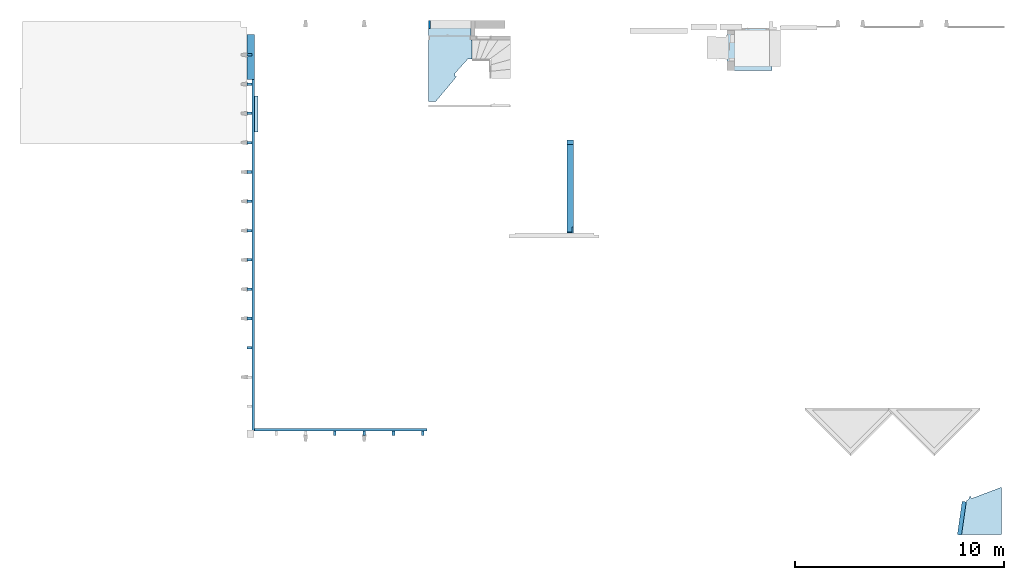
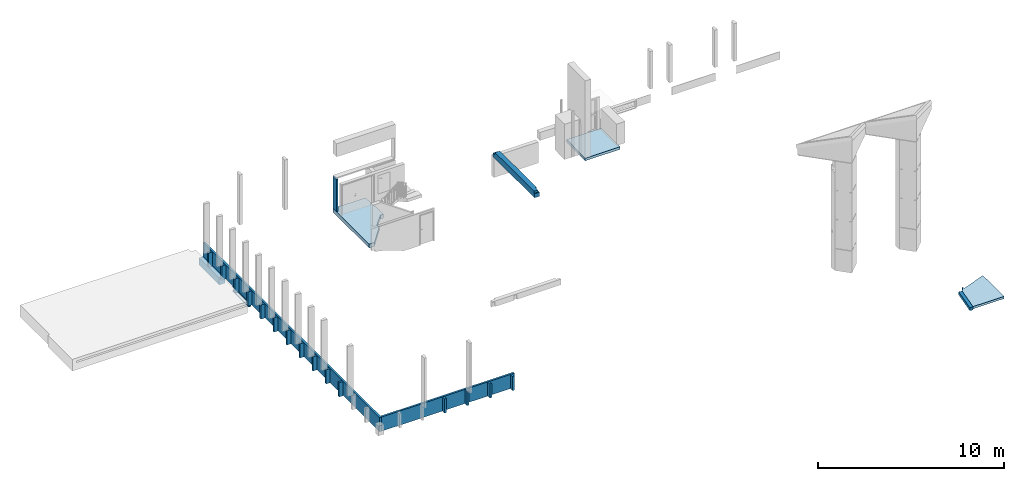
# One storey, part 2 of 13: 15 columns, 5 slabs, 4 walls, 2 beams.
"""IFC4 building model written with IfcOpenShell, lengths in metres."""

from ifc_helpers import new_model, entity, si_unit, converted_unit, derived_unit, direction, frame, origin, place, context, subcontext, project, spatial, indexed_curve, outline, extrude, polygons, source, transform, mapped, material, material_list, layer, layer_set, type_object, type_shapes, element, save


model = new_model("IFC4")

# Units and contexts
model_context = context("Model", 3, precision=1e-05, world=origin(), true_north=direction((6.12303176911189e-17, 1.0)))
body_context = subcontext(model_context, "Body", "Model", "MODEL_VIEW")
ifc_project = project(units=[si_unit("LENGTHUNIT", "METRE"), si_unit("AREAUNIT", "SQUARE_METRE"), si_unit("VOLUMEUNIT", "CUBIC_METRE"), converted_unit("PLANEANGLEUNIT", "DEGREE", entity("IfcRatioMeasure", 0.0174532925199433), si_unit("PLANEANGLEUNIT", "RADIAN"), dimensions=[0, 0, 0, 0, 0, 0, 0]), si_unit("MASSUNIT", "GRAM", prefix="KILO"), derived_unit("MASSDENSITYUNIT", [(si_unit("MASSUNIT", "GRAM", prefix="KILO"), 1), (si_unit("LENGTHUNIT", "METRE"), -3)]), derived_unit("MOMENTOFINERTIAUNIT", [(si_unit("LENGTHUNIT", "METRE"), 4)]), si_unit("TIMEUNIT", "SECOND"), si_unit("FREQUENCYUNIT", "HERTZ"), si_unit("THERMODYNAMICTEMPERATUREUNIT", "DEGREE_CELSIUS"), derived_unit("THERMALTRANSMITTANCEUNIT", [(si_unit("MASSUNIT", "GRAM", prefix="KILO"), 1), (si_unit("THERMODYNAMICTEMPERATUREUNIT", "KELVIN"), -1), (si_unit("TIMEUNIT", "SECOND"), -3)]), derived_unit("VOLUMETRICFLOWRATEUNIT", [(si_unit("LENGTHUNIT", "METRE"), 3), (si_unit("TIMEUNIT", "SECOND"), -1)]), si_unit("ELECTRICCURRENTUNIT", "AMPERE"), si_unit("ELECTRICVOLTAGEUNIT", "VOLT"), si_unit("POWERUNIT", "WATT"), si_unit("FORCEUNIT", "NEWTON", prefix="KILO"), si_unit("ILLUMINANCEUNIT", "LUX"), si_unit("LUMINOUSFLUXUNIT", "LUMEN"), si_unit("LUMINOUSINTENSITYUNIT", "CANDELA"), derived_unit("USERDEFINED", [(si_unit("MASSUNIT", "GRAM", prefix="KILO"), -1), (si_unit("LENGTHUNIT", "METRE"), -2), (si_unit("TIMEUNIT", "SECOND"), 3), (si_unit("LUMINOUSFLUXUNIT", "LUMEN"), 1)]), derived_unit("LINEARVELOCITYUNIT", [(si_unit("LENGTHUNIT", "METRE"), 1), (si_unit("TIMEUNIT", "SECOND"), -1)]), si_unit("PRESSUREUNIT", "PASCAL"), derived_unit("USERDEFINED", [(si_unit("LENGTHUNIT", "METRE"), -2), (si_unit("MASSUNIT", "GRAM", prefix="KILO"), 1), (si_unit("TIMEUNIT", "SECOND"), -2)]), derived_unit("LINEARFORCEUNIT", [(si_unit("MASSUNIT", "GRAM", prefix="KILO"), 1), (si_unit("LENGTHUNIT", "METRE"), 1), (si_unit("TIMEUNIT", "SECOND"), -2), (si_unit("LENGTHUNIT", "METRE"), -1)]), derived_unit("PLANARFORCEUNIT", [(si_unit("MASSUNIT", "GRAM", prefix="KILO"), 1), (si_unit("LENGTHUNIT", "METRE"), 1), (si_unit("TIMEUNIT", "SECOND"), -2), (si_unit("LENGTHUNIT", "METRE"), -2)])], contexts=[model_context])

# Site, building, storey
site_placement = place(None, origin())
site = spatial("IfcSite", under=ifc_project, at=site_placement, Name="Default", CompositionType="ELEMENT")
building_placement = place(site_placement, origin())
building = spatial("IfcBuilding", under=site, at=building_placement, Name="HOTEL CONSULAIRE BOULOGNE SUR MER", CompositionType="ELEMENT")
storey_placement = place(building_placement, frame((0.0, 0.0, -1.40419978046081)))
storey = spatial("IfcBuildingStorey", under=building, at=storey_placement, Name="Demi-niveau", CompositionType="ELEMENT", Elevation=-1.40419978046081)

# Columns
ifc_material_1 = material(Name="Finition Peinture - Blanc satiné", Category="Peinture")
ifc_material_2 = material(Name="<Unnamed>")
ifc_material_list_1 = material_list([ifc_material_1, ifc_material_2])
column_type_1 = type_object("IfcColumnType", Name="Poteaux porteurs 93:Poteaux porteurs 1", PredefinedType="COLUMN", material=ifc_material_list_1)
shared_shape_1 = source(origin(), body_context, "Body", "SweptSolid", [
    extrude(outline(indexed_curve([(-0.0611500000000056, -0.124999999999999), (0.0611500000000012, -0.124999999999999), (0.06115000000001, 0.125000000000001), (-0.0611500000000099, 0.124999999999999), (-0.0611500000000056, -0.124999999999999)], self_intersect=False)), frame((-13.7203496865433, -25.4114499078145, -1.19958813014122), z_axis=(0.0, 0.0, 1.0), x_axis=(0.0, -1.0, 0.0)), (0.0, 0.0, 1.0), 0.929588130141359),
])
type_shapes(column_type_1, [shared_shape_1])
column_1_placement = place(storey_placement, frame((0.0, 0.0, 1.40419978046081)))
element("IfcColumn", 1, at=column_1_placement, inside=storey, type_object=column_type_1, material=ifc_material_1, Name="Poteaux porteurs 93:Poteaux porteurs 1", ObjectType="Poteaux porteurs 93:Poteaux porteurs 1", PredefinedType="COLUMN", context=body_context, shape_type="MappedRepresentation", body=[
    mapped(shared_shape_1, transform((0.0, 0.0, 0.0), scale=1.0)),
])
ifc_material_list_2 = material_list([ifc_material_2, ifc_material_1])
column_type_2 = type_object("IfcColumnType", Name="Poteaux porteurs 95:Poteaux porteurs 1", PredefinedType="COLUMN", material=ifc_material_list_2)
shared_shape_2 = source(origin(), body_context, "Body", "SweptSolid", [
    extrude(outline(indexed_curve([(-0.0611500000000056, -0.124999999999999), (0.0611500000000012, -0.124999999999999), (0.06115000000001, 0.125000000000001), (-0.0611500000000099, 0.124999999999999), (-0.0611500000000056, -0.124999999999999)], self_intersect=False)), frame((-13.7203496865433, -24.0114499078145, -1.19958813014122), z_axis=(0.0, 0.0, 1.0), x_axis=(0.0, -1.0, 0.0)), (0.0, 0.0, 1.0), 0.929588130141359),
])
type_shapes(column_type_2, [shared_shape_2])
column_2_placement = place(storey_placement, frame((0.0, 0.0, 1.40419978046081)))
element("IfcColumn", 2, at=column_2_placement, inside=storey, type_object=column_type_2, material=ifc_material_1, Name="Poteaux porteurs 95:Poteaux porteurs 1", ObjectType="Poteaux porteurs 95:Poteaux porteurs 1", PredefinedType="COLUMN", context=body_context, shape_type="MappedRepresentation", body=[
    mapped(shared_shape_2, transform((0.0, 0.0, 0.0), scale=1.0)),
])
ifc_material_list_3 = material_list([ifc_material_1, ifc_material_2])
column_type_3 = type_object("IfcColumnType", Name="Poteaux porteurs 96:Poteaux porteurs 1", PredefinedType="COLUMN", material=ifc_material_list_3)
shared_shape_3 = source(origin(), body_context, "Body", "SweptSolid", [
    extrude(outline(indexed_curve([(-0.0611500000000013, -0.124999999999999), (0.0611500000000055, -0.124999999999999), (0.0611500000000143, 0.125000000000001), (-0.0611500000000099, 0.124999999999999), (-0.0611500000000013, -0.124999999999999)], self_intersect=False)), frame((-13.7203496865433, -22.6114499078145, -1.19958813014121), z_axis=(0.0, 0.0, 1.0), x_axis=(0.0, -1.0, 0.0)), (0.0, 0.0, 1.0), 0.929588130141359),
])
type_shapes(column_type_3, [shared_shape_3])
column_3_placement = place(storey_placement, frame((0.0, 0.0, 1.40419978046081)))
element("IfcColumn", 3, at=column_3_placement, inside=storey, type_object=column_type_3, material=ifc_material_1, Name="Poteaux porteurs 96:Poteaux porteurs 1", ObjectType="Poteaux porteurs 96:Poteaux porteurs 1", PredefinedType="COLUMN", context=body_context, shape_type="MappedRepresentation", body=[
    mapped(shared_shape_3, transform((0.0, 0.0, 0.0), scale=1.0)),
])
ifc_material_list_4 = material_list([ifc_material_2, ifc_material_1])
column_type_4 = type_object("IfcColumnType", Name="Poteaux porteurs 97:Poteaux porteurs 1", PredefinedType="COLUMN", material=ifc_material_list_4)
shared_shape_4 = source(origin(), body_context, "Body", "SweptSolid", [
    extrude(outline(indexed_curve([(-0.0611500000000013, -0.124999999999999), (0.0611500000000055, -0.124999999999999), (0.0611500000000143, 0.125000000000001), (-0.0611500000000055, 0.124999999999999), (-0.0611500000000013, -0.124999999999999)], self_intersect=False)), frame((-13.7203496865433, -21.2114499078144, -1.19958813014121), z_axis=(0.0, 0.0, 1.0), x_axis=(0.0, -1.0, 0.0)), (0.0, 0.0, 1.0), 0.929588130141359),
])
type_shapes(column_type_4, [shared_shape_4])
column_4_placement = place(storey_placement, frame((0.0, 0.0, 1.40419978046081)))
element("IfcColumn", 4, at=column_4_placement, inside=storey, type_object=column_type_4, material=ifc_material_1, Name="Poteaux porteurs 97:Poteaux porteurs 1", ObjectType="Poteaux porteurs 97:Poteaux porteurs 1", PredefinedType="COLUMN", context=body_context, shape_type="MappedRepresentation", body=[
    mapped(shared_shape_4, transform((0.0, 0.0, 0.0), scale=1.0)),
])
ifc_material_list_5 = material_list([ifc_material_2, ifc_material_1])
column_type_5 = type_object("IfcColumnType", Name="Poteaux porteurs 98:Poteaux porteurs 1", PredefinedType="COLUMN", material=ifc_material_list_5)
shared_shape_5 = source(origin(), body_context, "Body", "SweptSolid", [
    extrude(outline(indexed_curve([(-0.0611500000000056, -0.124999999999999), (0.0611500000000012, -0.124999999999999), (0.06115000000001, 0.125000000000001), (-0.0611500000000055, 0.124999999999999), (-0.0611500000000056, -0.124999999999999)], self_intersect=False)), frame((-13.7203496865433, -19.8114499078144, -1.1995881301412), z_axis=(0.0, 0.0, 1.0), x_axis=(0.0, -1.0, 0.0)), (0.0, 0.0, 1.0), 0.929588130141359),
])
type_shapes(column_type_5, [shared_shape_5])
column_5_placement = place(storey_placement, frame((0.0, 0.0, 1.40419978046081)))
element("IfcColumn", 5, at=column_5_placement, inside=storey, type_object=column_type_5, material=ifc_material_1, Name="Poteaux porteurs 98:Poteaux porteurs 1", ObjectType="Poteaux porteurs 98:Poteaux porteurs 1", PredefinedType="COLUMN", context=body_context, shape_type="MappedRepresentation", body=[
    mapped(shared_shape_5, transform((0.0, 0.0, 0.0), scale=1.0)),
])
ifc_material_list_6 = material_list([ifc_material_1, ifc_material_2])
column_type_6 = type_object("IfcColumnType", Name="Poteaux porteurs 99:Poteaux porteurs 1", PredefinedType="COLUMN", material=ifc_material_list_6)
shared_shape_6 = source(origin(), body_context, "Body", "SweptSolid", [
    extrude(outline(indexed_curve([(-0.0611500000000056, -0.124999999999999), (0.0611500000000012, -0.124999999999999), (0.06115000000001, 0.125000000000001), (-0.0611500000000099, 0.124999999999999), (-0.0611500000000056, -0.124999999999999)], self_intersect=False)), frame((-13.7203496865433, -18.4114499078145, -1.1995881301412), z_axis=(0.0, 0.0, 1.0), x_axis=(0.0, -1.0, 0.0)), (0.0, 0.0, 1.0), 0.929588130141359),
])
type_shapes(column_type_6, [shared_shape_6])
column_6_placement = place(storey_placement, frame((0.0, 0.0, 1.40419978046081)))
element("IfcColumn", 6, at=column_6_placement, inside=storey, type_object=column_type_6, material=ifc_material_1, Name="Poteaux porteurs 99:Poteaux porteurs 1", ObjectType="Poteaux porteurs 99:Poteaux porteurs 1", PredefinedType="COLUMN", context=body_context, shape_type="MappedRepresentation", body=[
    mapped(shared_shape_6, transform((0.0, 0.0, 0.0), scale=1.0)),
])
ifc_material_list_7 = material_list([ifc_material_2, ifc_material_1])
column_type_7 = type_object("IfcColumnType", Name="Poteaux porteurs 100:Poteaux porteurs 1", PredefinedType="COLUMN", material=ifc_material_list_7)
shared_shape_7 = source(origin(), body_context, "Body", "SweptSolid", [
    extrude(outline(indexed_curve([(-0.0611500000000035, -0.124999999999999), (0.0611500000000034, -0.124999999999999), (0.0611500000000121, 0.125000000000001), (-0.0611500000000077, 0.124999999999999), (-0.0611500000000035, -0.124999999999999)], self_intersect=False)), frame((-13.7203496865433, -17.0114499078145, -1.1995881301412), z_axis=(0.0, 0.0, 1.0), x_axis=(0.0, -1.0, 0.0)), (0.0, 0.0, 1.0), 0.929588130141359),
])
type_shapes(column_type_7, [shared_shape_7])
column_7_placement = place(storey_placement, frame((0.0, 0.0, 1.40419978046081)))
element("IfcColumn", 7, at=column_7_placement, inside=storey, type_object=column_type_7, material=ifc_material_1, Name="Poteaux porteurs 100:Poteaux porteurs 1", ObjectType="Poteaux porteurs 100:Poteaux porteurs 1", PredefinedType="COLUMN", context=body_context, shape_type="MappedRepresentation", body=[
    mapped(shared_shape_7, transform((0.0, 0.0, 0.0), scale=1.0)),
])
ifc_material_list_8 = material_list([ifc_material_2, ifc_material_1])
column_type_8 = type_object("IfcColumnType", Name="Poteaux porteurs 101:Poteaux porteurs 1", PredefinedType="COLUMN", material=ifc_material_list_8)
shared_shape_8 = source(origin(), body_context, "Body", "SweptSolid", [
    extrude(outline(indexed_curve([(-0.0611500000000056, -0.124999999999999), (0.0611500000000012, -0.124999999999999), (0.06115000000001, 0.125000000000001), (-0.0611500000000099, 0.124999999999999), (-0.0611500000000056, -0.124999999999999)], self_intersect=False)), frame((-13.7203496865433, -15.6114499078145, -1.19958813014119), z_axis=(0.0, 0.0, 1.0), x_axis=(0.0, -1.0, 0.0)), (0.0, 0.0, 1.0), 0.929588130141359),
])
type_shapes(column_type_8, [shared_shape_8])
column_8_placement = place(storey_placement, frame((0.0, 0.0, 1.40419978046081)))
element("IfcColumn", 8, at=column_8_placement, inside=storey, type_object=column_type_8, material=ifc_material_1, Name="Poteaux porteurs 101:Poteaux porteurs 1", ObjectType="Poteaux porteurs 101:Poteaux porteurs 1", PredefinedType="COLUMN", context=body_context, shape_type="MappedRepresentation", body=[
    mapped(shared_shape_8, transform((0.0, 0.0, 0.0), scale=1.0)),
])
ifc_material_list_9 = material_list([ifc_material_2, ifc_material_1])
column_type_9 = type_object("IfcColumnType", Name="Poteaux porteurs 102:Poteaux porteurs 1", PredefinedType="COLUMN", material=ifc_material_list_9)
shared_shape_9 = source(origin(), body_context, "Body", "SweptSolid", [
    extrude(outline(indexed_curve([(-0.0611500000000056, -0.124999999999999), (0.0611500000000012, -0.124999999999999), (0.06115000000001, 0.125000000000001), (-0.0611500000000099, 0.124999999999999), (-0.0611500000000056, -0.124999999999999)], self_intersect=False)), frame((-13.7203496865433, -14.2114499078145, -1.19958813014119), z_axis=(0.0, 0.0, 1.0), x_axis=(0.0, -1.0, 0.0)), (0.0, 0.0, 1.0), 0.929588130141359),
])
type_shapes(column_type_9, [shared_shape_9])
column_9_placement = place(storey_placement, frame((0.0, 0.0, 1.40419978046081)))
element("IfcColumn", 9, at=column_9_placement, inside=storey, type_object=column_type_9, material=ifc_material_1, Name="Poteaux porteurs 102:Poteaux porteurs 1", ObjectType="Poteaux porteurs 102:Poteaux porteurs 1", PredefinedType="COLUMN", context=body_context, shape_type="MappedRepresentation", body=[
    mapped(shared_shape_9, transform((0.0, 0.0, 0.0), scale=1.0)),
])
ifc_material_list_10 = material_list([ifc_material_2, ifc_material_1])
column_type_10 = type_object("IfcColumnType", Name="Poteaux porteurs 103:Poteaux porteurs 1", PredefinedType="COLUMN", material=ifc_material_list_10)
shared_shape_10 = source(origin(), body_context, "Body", "SweptSolid", [
    extrude(outline(indexed_curve([(-0.0611500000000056, -0.124999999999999), (0.0611500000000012, -0.124999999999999), (0.06115000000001, 0.125000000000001), (-0.0611500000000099, 0.124999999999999), (-0.0611500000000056, -0.124999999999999)], self_intersect=False)), frame((-13.7203496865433, -12.8114499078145, -1.19958813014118), z_axis=(0.0, 0.0, 1.0), x_axis=(0.0, -1.0, 0.0)), (0.0, 0.0, 1.0), 0.929588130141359),
])
type_shapes(column_type_10, [shared_shape_10])
column_10_placement = place(storey_placement, frame((0.0, 0.0, 1.40419978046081)))
element("IfcColumn", 10, at=column_10_placement, inside=storey, type_object=column_type_10, material=ifc_material_1, Name="Poteaux porteurs 103:Poteaux porteurs 1", ObjectType="Poteaux porteurs 103:Poteaux porteurs 1", PredefinedType="COLUMN", context=body_context, shape_type="MappedRepresentation", body=[
    mapped(shared_shape_10, transform((0.0, 0.0, 0.0), scale=1.0)),
])
ifc_material_list_11 = material_list([ifc_material_2, ifc_material_1])
column_type_11 = type_object("IfcColumnType", Name="Poteaux porteurs 104:Poteaux porteurs 1", PredefinedType="COLUMN", material=ifc_material_list_11)
shared_shape_11 = source(origin(), body_context, "Body", "SweptSolid", [
    extrude(outline(indexed_curve([(-0.0611500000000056, -0.124999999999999), (0.0611500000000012, -0.124999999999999), (0.06115000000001, 0.125000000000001), (-0.0611500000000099, 0.124999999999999), (-0.0611500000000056, -0.124999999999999)], self_intersect=False)), frame((-13.7203496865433, -11.4114499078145, -1.19958813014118), z_axis=(0.0, 0.0, 1.0), x_axis=(0.0, -1.0, 0.0)), (0.0, 0.0, 1.0), 0.929588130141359),
])
type_shapes(column_type_11, [shared_shape_11])
column_11_placement = place(storey_placement, frame((0.0, 0.0, 1.40419978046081)))
element("IfcColumn", 11, at=column_11_placement, inside=storey, type_object=column_type_11, material=ifc_material_1, Name="Poteaux porteurs 104:Poteaux porteurs 1", ObjectType="Poteaux porteurs 104:Poteaux porteurs 1", PredefinedType="COLUMN", context=body_context, shape_type="MappedRepresentation", body=[
    mapped(shared_shape_11, transform((0.0, 0.0, 0.0), scale=1.0)),
])
ifc_material_list_12 = material_list([ifc_material_1, ifc_material_2])
column_type_12 = type_object("IfcColumnType", Name="Poteaux porteurs 107:Poteaux porteurs 1", PredefinedType="COLUMN", material=ifc_material_list_12)
shared_shape_12 = source(origin(), body_context, "Body", "SweptSolid", [
    extrude(outline(indexed_curve([(-0.112611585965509, -0.0611500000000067), (0.112611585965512, -0.0611500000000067), (0.112611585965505, 0.0611500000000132), (-0.112611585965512, 0.0611500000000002), (-0.112611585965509, -0.0611500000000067)], self_intersect=False)), frame((-9.64141997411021, -29.5006786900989, -1.19958813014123), z_axis=(0.0, 0.0, 1.0), x_axis=(0.0, -1.0, 0.0)), (0.0, 0.0, 1.0), 0.929588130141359),
])
type_shapes(column_type_12, [shared_shape_12])
column_12_placement = place(storey_placement, frame((0.0, 0.0, 1.40419978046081)))
element("IfcColumn", 12, at=column_12_placement, inside=storey, type_object=column_type_12, material=ifc_material_1, Name="Poteaux porteurs 107:Poteaux porteurs 1", ObjectType="Poteaux porteurs 107:Poteaux porteurs 1", PredefinedType="COLUMN", context=body_context, shape_type="MappedRepresentation", body=[
    mapped(shared_shape_12, transform((0.0, 0.0, 0.0), scale=1.0)),
])
ifc_material_list_13 = material_list([ifc_material_1, ifc_material_2])
column_type_13 = type_object("IfcColumnType", Name="Poteaux porteurs 108:Poteaux porteurs 1", PredefinedType="COLUMN", material=ifc_material_list_13)
shared_shape_13 = source(origin(), body_context, "Body", "SweptSolid", [
    extrude(outline(indexed_curve([(-0.112611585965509, -0.0611500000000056), (0.112611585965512, -0.0611500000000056), (0.112611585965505, 0.0611500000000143), (-0.112611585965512, 0.0611500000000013), (-0.112611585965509, -0.0611500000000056)], self_intersect=False)), frame((-8.24141997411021, -29.5006786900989, -1.19958813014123), z_axis=(0.0, 0.0, 1.0), x_axis=(0.0, -1.0, 0.0)), (0.0, 0.0, 1.0), 0.929588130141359),
])
type_shapes(column_type_13, [shared_shape_13])
column_13_placement = place(storey_placement, frame((0.0, 0.0, 1.40419978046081)))
element("IfcColumn", 13, at=column_13_placement, inside=storey, type_object=column_type_13, material=ifc_material_1, Name="Poteaux porteurs 108:Poteaux porteurs 1", ObjectType="Poteaux porteurs 108:Poteaux porteurs 1", PredefinedType="COLUMN", context=body_context, shape_type="MappedRepresentation", body=[
    mapped(shared_shape_13, transform((0.0, 0.0, 0.0), scale=1.0)),
])
ifc_material_list_14 = material_list([ifc_material_1, ifc_material_2])
column_type_14 = type_object("IfcColumnType", Name="Poteaux porteurs 109:Poteaux porteurs 1", PredefinedType="COLUMN", material=ifc_material_list_14)
shared_shape_14 = source(origin(), body_context, "Body", "SweptSolid", [
    extrude(outline(indexed_curve([(-0.112611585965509, -0.0611500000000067), (0.112611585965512, -0.0611500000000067), (0.112611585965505, 0.0611500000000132), (-0.112611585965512, 0.0611500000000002), (-0.112611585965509, -0.0611500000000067)], self_intersect=False)), frame((-6.84141997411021, -29.5006786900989, -1.19958813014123), z_axis=(0.0, 0.0, 1.0), x_axis=(0.0, -1.0, 0.0)), (0.0, 0.0, 1.0), 0.929588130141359),
])
type_shapes(column_type_14, [shared_shape_14])
column_14_placement = place(storey_placement, frame((0.0, 0.0, 1.40419978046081)))
element("IfcColumn", 14, at=column_14_placement, inside=storey, type_object=column_type_14, material=ifc_material_1, Name="Poteaux porteurs 109:Poteaux porteurs 1", ObjectType="Poteaux porteurs 109:Poteaux porteurs 1", PredefinedType="COLUMN", context=body_context, shape_type="MappedRepresentation", body=[
    mapped(shared_shape_14, transform((0.0, 0.0, 0.0), scale=1.0)),
])
ifc_material_list_15 = material_list([ifc_material_1, ifc_material_2])
column_type_15 = type_object("IfcColumnType", Name="Poteaux porteurs 110:Poteaux porteurs 1", PredefinedType="COLUMN", material=ifc_material_list_15)
shared_shape_15 = source(origin(), body_context, "Body", "SweptSolid", [
    extrude(outline(indexed_curve([(-0.112611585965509, -0.0611500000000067), (0.112611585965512, -0.0611500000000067), (0.112611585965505, 0.0611500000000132), (-0.112611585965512, 0.0611500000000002), (-0.112611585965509, -0.0611500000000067)], self_intersect=False)), frame((-5.44141997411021, -29.5006786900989, -1.19958813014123), z_axis=(0.0, 0.0, 1.0), x_axis=(0.0, -1.0, 0.0)), (0.0, 0.0, 1.0), 0.929588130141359),
])
type_shapes(column_type_15, [shared_shape_15])
column_15_placement = place(storey_placement, frame((0.0, 0.0, 1.40419978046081)))
element("IfcColumn", 15, at=column_15_placement, inside=storey, type_object=column_type_15, material=ifc_material_1, Name="Poteaux porteurs 110:Poteaux porteurs 1", ObjectType="Poteaux porteurs 110:Poteaux porteurs 1", PredefinedType="COLUMN", context=body_context, shape_type="MappedRepresentation", body=[
    mapped(shared_shape_15, transform((0.0, 0.0, 0.0), scale=1.0)),
])

# Beams
ifc_material_3 = material(Name="Béton - Béton coulé sur place", Category="Béton")
beam_type_1 = type_object("IfcBeamType", Name="Poutre rectangulaire - Béton:200x200", PredefinedType="BEAM", material=ifc_material_3)
shared_shape_16 = source(origin(), body_context, "Body", "Tessellation", [
    polygons([(0.0, 0.0285473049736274, 0.2), (0.0, 0.0285473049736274, 0.0), (0.197952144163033, 0.0, 0.0), (0.197952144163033, 0.0, 0.2), (0.228788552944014, 1.6150082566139, 0.200000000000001), (0.228788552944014, 1.61500825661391, 8.12150346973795e-16), (0.0288156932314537, 0.228360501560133, 2.70716782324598e-16), (0.00311988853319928, 0.0501811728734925, 0.0), (0.260522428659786, 1.60910167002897, 8.12150346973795e-16), (0.292707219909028, 1.60663877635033, 8.12150346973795e-16), (0.426860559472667, 1.58729209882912, 8.12150346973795e-16), (0.227974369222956, 0.20817950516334, 2.70716782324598e-16), (0.202162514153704, 0.0291954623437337, 2.70716782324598e-16), (0.426860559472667, 1.58729209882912, 0.200000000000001), (0.292707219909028, 1.60663877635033, 0.200000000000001), (0.260522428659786, 1.60910167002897, 0.200000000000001)], [[[4, 1, 2, 3]], [[2, 1, 5, 6, 7, 8]], [[2, 8, 7, 6, 9, 10, 11, 12, 13, 3]], [[4, 3, 13, 12, 11, 14]], [[1, 4, 14, 15, 16, 5]], [[5, 16, 9, 6]], [[15, 10, 9, 16]], [[10, 15, 14, 11]]], closed=True),
])
type_shapes(beam_type_1, [shared_shape_16])
beam_1_placement = place(storey_placement, frame((20.1078210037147, -34.3669716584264, -0.657300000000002)))
element("IfcBeam", 16, at=beam_1_placement, inside=storey, type_object=beam_type_1, material=ifc_material_3, Name="Poutre rectangulaire - Béton:200x200", ObjectType="Poutre rectangulaire - Béton:200x200", PredefinedType="BEAM", context=body_context, shape_type="MappedRepresentation", body=[
    mapped(shared_shape_16, transform((0.0, 0.0, 0.0), scale=1.0)),
])
beam_type_2 = type_object("IfcBeamType", Name="Poutre rectangulaire - Béton:300X400", PredefinedType="BEAM", material=ifc_material_3)
shared_shape_17 = source(origin(), body_context, "Body", "Tessellation", [
    polygons([(0.300000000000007, 4.4344, 0.0), (0.235000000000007, 4.4344, 0.0), (0.170000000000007, 4.4344, 0.0), (7.03863634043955e-15, 4.4344, 0.0), (7.03863634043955e-15, 4.4344, 0.261821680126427), (0.235000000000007, 4.4344, 0.261821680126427), (0.300000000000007, 4.4344, 0.261821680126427), (0.0, 0.0, 0.0), (0.3, 0.0, 0.0), (0.3, 0.0, 0.261821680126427), (0.0, 0.0, 0.261821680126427), (0.3, 0.0123638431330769, 0.0), (0.300000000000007, 4.22703615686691, 0.261821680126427), (0.300000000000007, 4.22703615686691, 0.296821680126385), (0.300000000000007, 4.22703615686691, 0.4), (0.300000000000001, 0.292363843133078, 0.4), (0.300000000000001, 0.292363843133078, 0.261821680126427), (7.03863634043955e-15, 4.42203615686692, 0.0), (0.0, 0.0474442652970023, 0.261821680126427), (0.0, 0.0474442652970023, 0.4), (6.76791955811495e-15, 4.22703615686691, 0.4), (6.76791955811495e-15, 4.22703615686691, 0.261821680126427), (7.03863634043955e-15, 4.42203615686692, 0.261821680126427), (0.170000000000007, 4.22703615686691, 0.4), (0.235000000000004, 0.0474442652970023, 0.4), (0.235000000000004, 0.282363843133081, 0.4), (0.235000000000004, 0.292363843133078, 0.4), (0.235000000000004, 0.0474442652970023, 0.261821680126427), (0.235000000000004, 0.292363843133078, 0.261821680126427)], [[[6, 7, 1, 2, 3, 4, 5]], [[13, 22, 21, 24, 15, 14]], [[8, 9, 10, 11]], [[27, 29, 17, 16]], [[20, 19, 28, 25]], [[15, 16, 17, 10, 9, 12, 1, 7, 13, 14]], [[26, 25, 28, 29, 27]], [[12, 9, 8, 18, 4, 3, 2, 1]], [[23, 5, 4, 18, 8, 11, 19, 20, 21, 22]], [[27, 16, 15, 24, 21, 20, 25, 26]], [[13, 7, 6, 5, 23, 22]], [[29, 28, 19, 11, 10, 17]]], closed=True),
])
type_shapes(beam_type_2, [shared_shape_17])
beam_2_placement = place(storey_placement, frame((1.45747131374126, -19.9272782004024, 4.52890507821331)))
element("IfcBeam", 17, at=beam_2_placement, inside=storey, type_object=beam_type_2, material=ifc_material_3, Name="Poutre rectangulaire - Béton:300X400", ObjectType="Poutre rectangulaire - Béton:300X400", PredefinedType="BEAM", context=body_context, shape_type="MappedRepresentation", body=[
    mapped(shared_shape_17, transform((0.0, 0.0, 0.0), scale=1.0)),
])

# Slabs
ifc_layer_1 = layer(ifc_material_3, 0.25, Name="Béton - Béton coulé sur place", Category="Béton")
ifc_layer_set_1 = layer_set([ifc_layer_1], Name="Sol:Dalle en béton -250")
slab_type_1 = type_object("IfcSlabType", Name="Sol:Dalle en béton -250", PredefinedType="FLOOR", material=ifc_layer_set_1)
slab_1_placement = place(storey_placement, origin())
element("IfcSlab", 18, at=slab_1_placement, inside=storey, type_object=slab_type_1, material=ifc_layer_set_1, Name="Sol:Dalle en béton -250", ObjectType="Sol:Dalle en béton -250", PredefinedType="FLOOR", context=body_context, shape_type="SweptSolid", body=[
    extrude(outline(indexed_curve([(-1.94900257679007, -1.29448252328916), (1.91241730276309, -1.29448252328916), (1.91241730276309, 0.720561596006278), (0.990037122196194, 0.720561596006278), (0.990037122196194, 0.783182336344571), (0.0900873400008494, 0.767473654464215), (0.0900873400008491, 0.583672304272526), (-0.604359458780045, -0.0416104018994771), (-0.741359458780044, -0.0416104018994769), (-0.741359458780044, 0.0550336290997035), (-1.94900257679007, -0.958299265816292), (-1.94900257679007, -1.29448252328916)], self_intersect=False)), frame((-3.86529065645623, -11.692741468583, 0.0), z_axis=(0.0, 0.0, -1.0), x_axis=(0.0, 1.0, 0.0)), (0.0, 0.0, 1.0), 0.25),
])
ifc_layer_2 = layer(ifc_material_3, 0.15, Name="Béton - Béton coulé sur place", Category="Béton")
ifc_layer_set_2 = layer_set([ifc_layer_2], Name="Sol:Dalle en béton -150mm")
slab_type_2 = type_object("IfcSlabType", Name="Sol:Dalle en béton -150mm", PredefinedType="FLOOR", material=ifc_layer_set_2)
slab_2_placement = place(storey_placement, origin())
element("IfcSlab", 19, at=slab_2_placement, inside=storey, type_object=slab_type_2, material=ifc_layer_set_2, Name="Sol:Dalle en béton -150mm", ObjectType="Sol:Dalle en béton -150mm", PredefinedType="FLOOR", context=body_context, shape_type="SweptSolid", body=[
    extrude(outline(indexed_curve([(-1.09475817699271, -1.24763057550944), (0.823897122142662, -1.24763057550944), (0.591333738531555, 0.365005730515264), (0.562635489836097, 0.381514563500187), (0.535933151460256, 0.401087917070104), (0.511552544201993, 0.423486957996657), (0.489791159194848, 0.448438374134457), (0.470914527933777, 0.475637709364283), (0.455152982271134, 0.504753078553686), (0.442698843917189, 0.535429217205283), (0.433704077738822, 0.567291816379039), (0.428278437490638, 0.599952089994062), (0.426488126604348, 0.63301151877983), (0.347797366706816, 0.475288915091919), (-1.0947581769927, 1.02195498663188), (-1.09475817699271, -1.24763057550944)], self_intersect=False)), frame((21.1335396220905, -33.0925103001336, -0.457328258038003), z_axis=(0.0, 0.0, -1.0), x_axis=(-1.0, 0.0, 0.0)), (0.0, 0.0, 1.0), 0.15),
])
ifc_material_4 = material(Name="Plâtre", Category="Plâtre")
ifc_layer_3 = layer(ifc_material_4, 0.05, Name="Plâtre", Category="Plâtre")
ifc_layer_set_3 = layer_set([ifc_layer_3], Name="Sol:plâtre 50")
slab_type_3 = type_object("IfcSlabType", Name="Sol:plâtre 50", PredefinedType="FLOOR", material=ifc_layer_set_3)
slab_3_placement = place(storey_placement, origin())
element("IfcSlab", 20, at=slab_3_placement, inside=storey, type_object=slab_type_3, material=ifc_layer_set_3, Name="Sol:plâtre 50", ObjectType="Sol:plâtre 50", PredefinedType="FLOOR", context=body_context, shape_type="SweptSolid", body=[
    extrude(outline(indexed_curve([(-0.863374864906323, -0.0755202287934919), (0.863374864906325, -0.0755202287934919), (0.863374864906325, 0.0755202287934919), (-0.863374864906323, 0.0755202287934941), (-0.863374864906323, -0.0755202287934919)], self_intersect=False)), frame((-13.39982945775, -14.233200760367, -0.288795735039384), z_axis=(0.0, 0.0, -1.0), x_axis=(0.0, 1.0, 0.0)), (0.0, 0.0, 1.0), 0.05),
])
ifc_material_5 = material(Name="carrelage 30x30")
ifc_layer_4 = layer(ifc_material_5, 0.02, Name="carrelage 30x30")
ifc_layer_5 = layer(ifc_material_3, 0.15, Name="Béton - Béton coulé sur place", Category="Béton")
ifc_layer_set_4 = layer_set([ifc_layer_4, ifc_layer_5], Name="Sol:béton 150+carrelage")
slab_type_4 = type_object("IfcSlabType", Name="Sol:béton 150+carrelage", PredefinedType="FLOOR", material=ifc_layer_set_4)
slab_4_placement = place(storey_placement, origin())
element("IfcSlab", 21, at=slab_4_placement, inside=storey, type_object=slab_type_4, material=ifc_layer_set_4, Name="Sol:béton 150+carrelage", ObjectType="Sol:béton 150+carrelage", PredefinedType="FLOOR", context=body_context, shape_type="SweptSolid", body=[
    extrude(outline(indexed_curve([(-1.07736714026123, -1.00823357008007), (1.08706959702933, -1.00823357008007), (1.06766468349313, 1.00823357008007), (-1.07736714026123, 1.00823357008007), (-1.07736714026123, -1.00823357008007)], self_intersect=False)), frame((10.1732765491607, -11.1425577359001, -0.2674), z_axis=(0.0, 0.0, -1.0), x_axis=(-1.0, 0.0, 0.0)), (0.0, 0.0, 1.0), 0.17),
])
slab_type_5 = type_object("IfcSlabType", Name="Sol:plâtre 50", PredefinedType="FLOOR", material=ifc_layer_set_3)
slab_5_placement = place(storey_placement, origin())
element("IfcSlab", 22, at=slab_5_placement, inside=storey, type_object=slab_type_5, material=ifc_layer_set_3, Name="Sol:plâtre 50", ObjectType="Sol:plâtre 50", PredefinedType="FLOOR", context=body_context, shape_type="SweptSolid", body=[
    extrude(outline(indexed_curve([(-0.863374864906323, -0.0755202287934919), (0.863374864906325, -0.0755202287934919), (0.863374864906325, 0.0755202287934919), (-0.863374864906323, 0.0755202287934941), (-0.863374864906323, -0.0755202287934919)], self_intersect=False)), frame((-13.39982945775, -14.233200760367, 0.0221949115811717), z_axis=(0.0, 0.0, -1.0), x_axis=(0.0, 1.0, 0.0)), (0.0, 0.0, 1.0), 0.05),
])

# Walls
ifc_material_6 = material(Name="Mur par défaut", Category="Divers")
ifc_layer_6 = layer(ifc_material_6, 0.37, Name="Mur par défaut", Category="Divers")
ifc_layer_set_5 = layer_set([ifc_layer_6], Name="Mur de base:Générique - Ext.370")
wall_type_1 = type_object("IfcWallType", Name="Mur de base:Générique - Ext.370", PredefinedType="NOTDEFINED", material=ifc_layer_set_5)
wall_1_placement = place(storey_placement, frame((-5.16398066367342, -9.96532416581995, 0.0)))
element("IfcWall", 23, at=wall_1_placement, inside=storey, type_object=wall_type_1, material=ifc_layer_set_5, Name="Mur de base:Générique - Ext.370", ObjectType="Mur de base:Générique - Ext.370", PredefinedType="NOTDEFINED", context=body_context, shape_type="SweptSolid", body=[
    extrude(outline(indexed_curve([(0.0822074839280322, 0.184999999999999), (-7.32591035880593e-16, 0.184999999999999), (7.32591035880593e-16, -0.184999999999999), (0.0822074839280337, -0.184999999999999), (0.0822074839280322, 0.184999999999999)], self_intersect=False)), origin(), (0.0, 0.0, 1.0), 2.10972920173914),
])
wall_2_placement = place(storey_placement, frame((-13.6603496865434, -12.5953241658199, -0.264685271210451), z_axis=(0.0, 0.0, 1.0), x_axis=(0.0, 1.0, 0.0)))
element("IfcWall", 24, at=wall_2_placement, inside=storey, type_object=wall_type_1, material=ifc_layer_set_5, Name="Mur de base:Générique - Ext.370", ObjectType="Mur de base:Générique - Ext.370", PredefinedType="NOTDEFINED", context=body_context, shape_type="SweptSolid", body=[
    extrude(outline(indexed_curve([(2.149, 0.184999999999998), (-2.9311190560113e-16, 0.184999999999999), (2.9311190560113e-16, -0.184999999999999), (2.149, -0.185), (2.149, 0.184999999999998)], self_intersect=False)), origin(), (0.0, 0.0, 1.0), 0.469296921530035),
])
ifc_layer_7 = layer(ifc_material_6, 0.12, Name="Mur par défaut", Category="Divers")
ifc_layer_set_6 = layer_set([ifc_layer_7], Name="Mur de base:Générique - Ext.120")
wall_type_2 = type_object("IfcWallType", Name="Mur de base:Générique - Ext.120", PredefinedType="NOTDEFINED", material=ifc_layer_set_6)
wall_3_placement = place(storey_placement, frame((-13.5353496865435, -29.3880671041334, 0.204611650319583), z_axis=(0.0, 0.0, 1.0), x_axis=(0.0, 1.0, 0.0)))
element("IfcWall", 25, at=wall_3_placement, inside=storey, type_object=wall_type_2, material=ifc_layer_set_6, Name="Mur de base:Générique - Ext.120", ObjectType="Mur de base:Générique - Ext.120", PredefinedType="NOTDEFINED", context=body_context, shape_type="SweptSolid", body=[
    extrude(outline(indexed_curve([(18.9417429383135, 0.0599999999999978), (-1.1172001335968e-16, 0.0599999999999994), (1.1172001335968e-16, -0.0599999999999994), (18.9417429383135, -0.0600000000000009), (18.9417429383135, 0.0599999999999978)], self_intersect=False)), origin(), (0.0, 0.0, 1.0), 0.929588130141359),
])
wall_4_placement = place(storey_placement, frame((-5.24468938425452, -29.3280671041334, 0.204611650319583), z_axis=(0.0, 0.0, 1.0), x_axis=(-1.0, 0.0, 0.0)))
element("IfcWall", 26, at=wall_4_placement, inside=storey, type_object=wall_type_2, material=ifc_layer_set_6, Name="Mur de base:Générique - Ext.120", ObjectType="Mur de base:Générique - Ext.120", PredefinedType="NOTDEFINED", context=body_context, shape_type="SweptSolid", body=[
    extrude(outline(indexed_curve([(8.23066030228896, 0.0599999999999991), (-2.51000702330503e-16, 0.0599999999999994), (2.51000702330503e-16, -0.0599999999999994), (8.23066030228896, -0.0599999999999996), (8.23066030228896, 0.0599999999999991)], self_intersect=False)), origin(), (0.0, 0.0, 1.0), 0.929588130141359),
])

save(model, "model.ifc")
